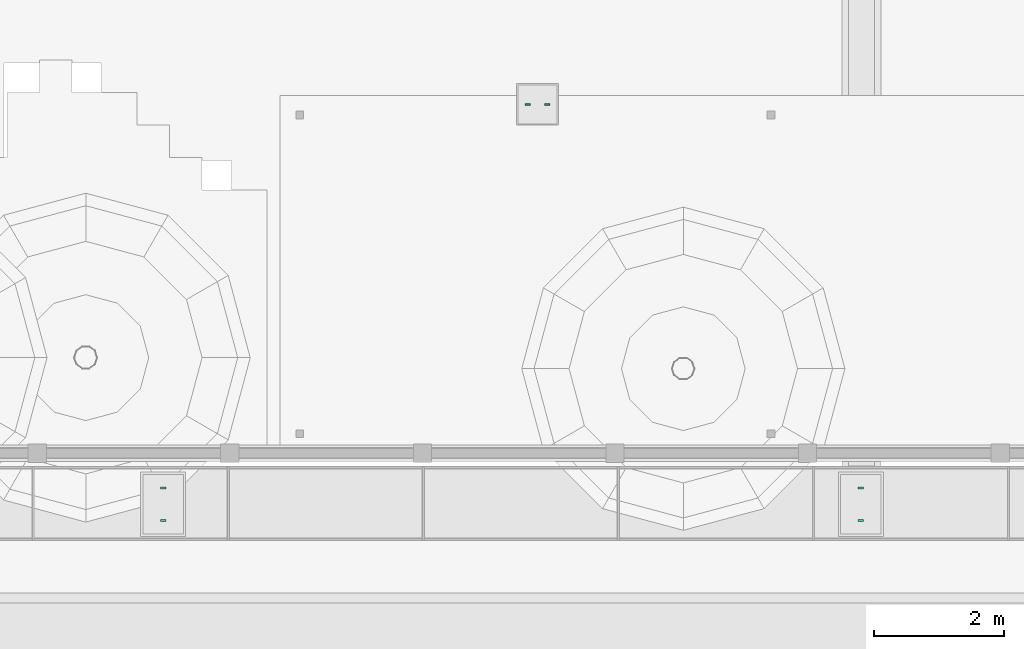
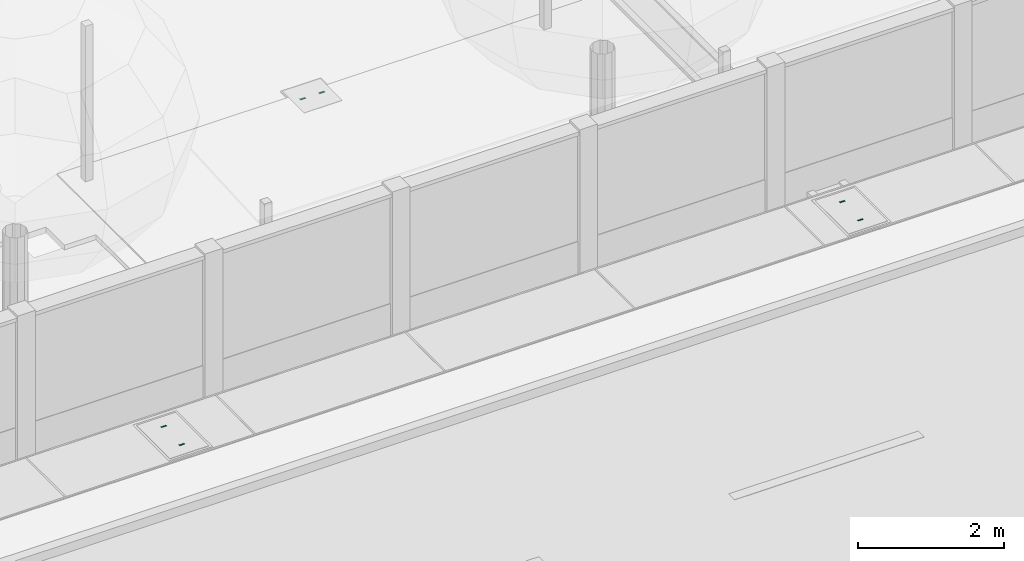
# One storey, part 134 of 177: 6 distribution chamber elements.
"""IFC4 building model written with IfcOpenShell, lengths in metres."""

from ifc_helpers import new_model, si_unit, origin, origin_with_axes, place, context, subcontext, project, spatial, triangles, element, save


model = new_model("IFC4")

# Units and contexts
model_context = context("Model", 3, precision=1e-05, world=origin_with_axes())
body_context = subcontext(model_context, "Body", "Model", "MODEL_VIEW")
ifc_project = project(units=[si_unit("LENGTHUNIT", "METRE"), si_unit("AREAUNIT", "SQUARE_METRE"), si_unit("VOLUMEUNIT", "CUBIC_METRE"), si_unit("PLANEANGLEUNIT", "RADIAN")], contexts=[model_context])

# Site, building, storey
site_placement = place(None, origin_with_axes())
site = spatial("IfcSite", under=ifc_project, at=site_placement, Name="Predio Los Mangos - Morales, San Martín", CompositionType="ELEMENT")
building_placement = place(site_placement, origin())
building = spatial("IfcBuilding", under=site, at=building_placement, Name="Hogar de Refugio Temporal", CompositionType="ELEMENT")
storey_placement = place(building_placement, origin())
storey = spatial("IfcBuildingStorey", under=building, at=storey_placement, Name="NIVEL 1 (NPT +0.00)", CompositionType="ELEMENT", Elevation=0.0)

# Distribution chamber elements
distribution_chamber_element_1_placement = place(storey_placement, origin())
element("IfcDistributionChamberElement", 1, at=distribution_chamber_element_1_placement, inside=storey, Name="tapa_insp_asa", ObjectType="Tapa de inspección", PredefinedType="INSPECTIONCHAMBER", context=body_context, shape_type="Tessellation", body=[
    triangles([(55.568, 23.354, 0.104), (55.648, 23.354, 0.104), (55.648, 23.378, 0.104), (55.568, 23.378, 0.104), (55.568, 23.354, 0.108), (55.648, 23.354, 0.108), (55.648, 23.378, 0.108), (55.568, 23.378, 0.108)], [[1, 4, 3], [1, 3, 2], [5, 6, 7], [5, 7, 8], [1, 2, 6], [1, 6, 5], [2, 3, 7], [2, 7, 6], [3, 4, 8], [3, 8, 7], [4, 1, 5], [4, 5, 8]]),
])
distribution_chamber_element_2_placement = place(storey_placement, origin())
element("IfcDistributionChamberElement", 2, at=distribution_chamber_element_2_placement, inside=storey, Name="tapa_insp_asa", ObjectType="Tapa de inspección", PredefinedType="INSPECTIONCHAMBER", context=body_context, shape_type="Tessellation", body=[
    triangles([(55.868, 23.354, 0.104), (55.948, 23.354, 0.104), (55.948, 23.378, 0.104), (55.868, 23.378, 0.104), (55.868, 23.354, 0.108), (55.948, 23.354, 0.108), (55.948, 23.378, 0.108), (55.868, 23.378, 0.108)], [[1, 4, 3], [1, 3, 2], [5, 6, 7], [5, 7, 8], [1, 2, 6], [1, 6, 5], [2, 3, 7], [2, 7, 6], [3, 4, 8], [3, 8, 7], [4, 1, 5], [4, 5, 8]]),
])
distribution_chamber_element_3_placement = place(storey_placement, origin())
element("IfcDistributionChamberElement", 3, at=distribution_chamber_element_3_placement, inside=storey, Name="tapa_asa", ObjectType="Tapa ciega de registro del colector", PredefinedType="INSPECTIONCHAMBER", context=body_context, shape_type="Tessellation", body=[
    triangles([(60.69, 16.953, 0.168), (60.77, 16.953, 0.168), (60.77, 16.977, 0.168), (60.69, 16.977, 0.168), (60.69, 16.953, 0.172), (60.77, 16.953, 0.172), (60.77, 16.977, 0.172), (60.69, 16.977, 0.172)], [[1, 4, 3], [1, 3, 2], [5, 6, 7], [5, 7, 8], [1, 2, 6], [1, 6, 5], [2, 3, 7], [2, 7, 6], [3, 4, 8], [3, 8, 7], [4, 1, 5], [4, 5, 8]]),
])
distribution_chamber_element_4_placement = place(storey_placement, origin())
element("IfcDistributionChamberElement", 4, at=distribution_chamber_element_4_placement, inside=storey, Name="tapa_asa", ObjectType="Tapa ciega de registro del colector", PredefinedType="INSPECTIONCHAMBER", context=body_context, shape_type="Tessellation", body=[
    triangles([(60.69, 17.453, 0.168), (60.77, 17.453, 0.168), (60.77, 17.477, 0.168), (60.69, 17.477, 0.168), (60.69, 17.453, 0.172), (60.77, 17.453, 0.172), (60.77, 17.477, 0.172), (60.69, 17.477, 0.172)], [[1, 4, 3], [1, 3, 2], [5, 6, 7], [5, 7, 8], [1, 2, 6], [1, 6, 5], [2, 3, 7], [2, 7, 6], [3, 4, 8], [3, 8, 7], [4, 1, 5], [4, 5, 8]]),
])
distribution_chamber_element_5_placement = place(storey_placement, origin())
element("IfcDistributionChamberElement", 5, at=distribution_chamber_element_5_placement, inside=storey, Name="tapa_asa", ObjectType="Tapa ciega de registro del colector", PredefinedType="INSPECTIONCHAMBER", context=body_context, shape_type="Tessellation", body=[
    triangles([(49.96, 16.953, 0.168), (50.04, 16.953, 0.168), (50.04, 16.977, 0.168), (49.96, 16.977, 0.168), (49.96, 16.953, 0.172), (50.04, 16.953, 0.172), (50.04, 16.977, 0.172), (49.96, 16.977, 0.172)], [[1, 4, 3], [1, 3, 2], [5, 6, 7], [5, 7, 8], [1, 2, 6], [1, 6, 5], [2, 3, 7], [2, 7, 6], [3, 4, 8], [3, 8, 7], [4, 1, 5], [4, 5, 8]]),
])
distribution_chamber_element_6_placement = place(storey_placement, origin())
element("IfcDistributionChamberElement", 6, at=distribution_chamber_element_6_placement, inside=storey, Name="tapa_asa", ObjectType="Tapa ciega de registro del colector", PredefinedType="INSPECTIONCHAMBER", context=body_context, shape_type="Tessellation", body=[
    triangles([(49.96, 17.453, 0.168), (50.04, 17.453, 0.168), (50.04, 17.477, 0.168), (49.96, 17.477, 0.168), (49.96, 17.453, 0.172), (50.04, 17.453, 0.172), (50.04, 17.477, 0.172), (49.96, 17.477, 0.172)], [[1, 4, 3], [1, 3, 2], [5, 6, 7], [5, 7, 8], [1, 2, 6], [1, 6, 5], [2, 3, 7], [2, 7, 6], [3, 4, 8], [3, 8, 7], [4, 1, 5], [4, 5, 8]]),
])

save(model, "model.ifc")
